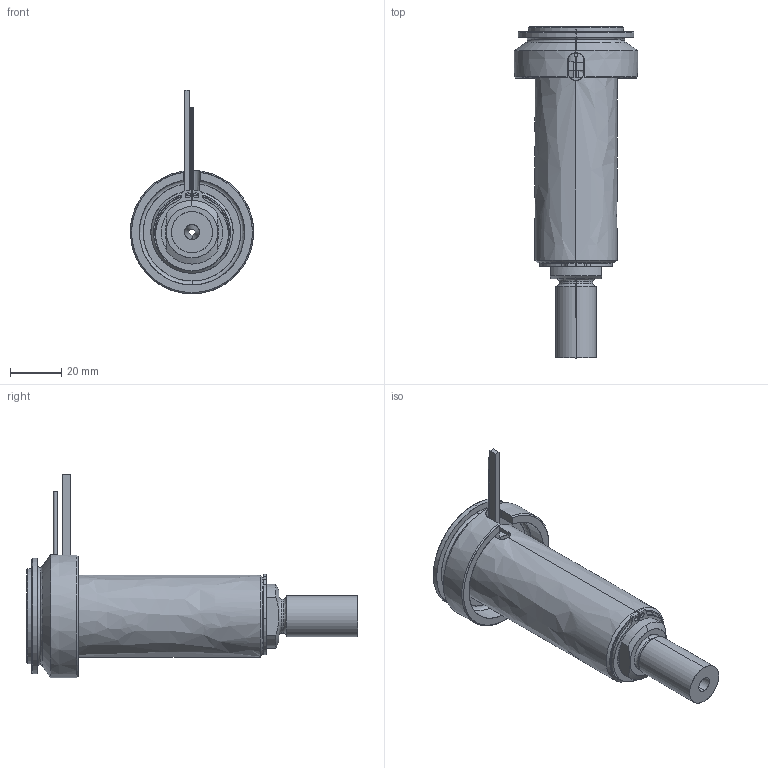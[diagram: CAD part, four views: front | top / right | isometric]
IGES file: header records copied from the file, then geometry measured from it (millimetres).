
Start section: SolidWorks IGES file using analytic representation for surfaces
Global section: file name: C:\Documents and Settings\ws-20\Desktop\TEMPORANEA\UGBE5002-M-A-P-3 [Ød-2.5 P-25 ØC-12].IGS; native system: SolidWorks 2012; preprocessor: SolidWorks 2012; author: ws-20; date: 120306.145112; units: millimetre
Bounding box: 48 x 129.25 x 79.3 mm (x, y, z)
Surface area: 40971.3 mm2 (no closed solid volume)
Topology: 0 solids, 0 shells, 108 faces, 2042 edges, 2042 vertices
Faces by surface type: revolution 61, bspline 47
